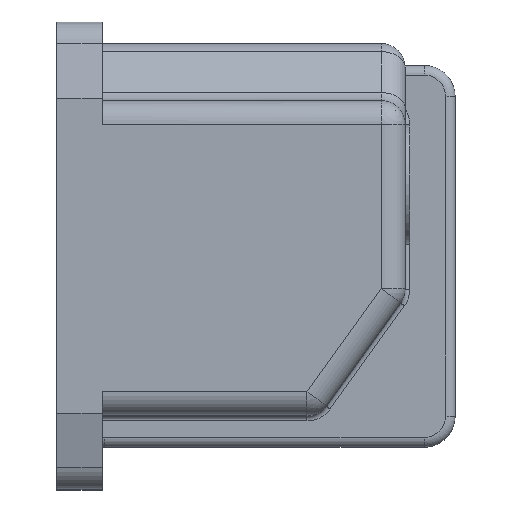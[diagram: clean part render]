
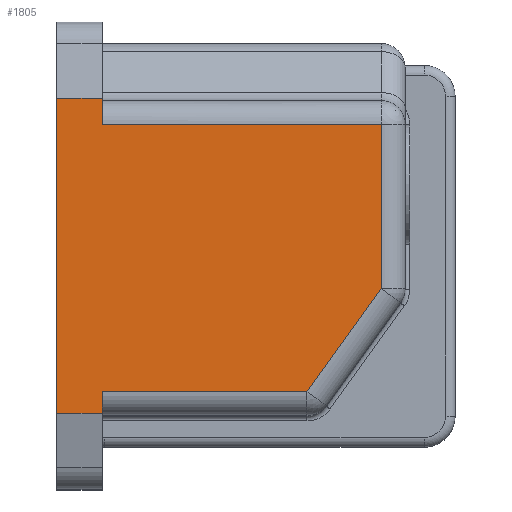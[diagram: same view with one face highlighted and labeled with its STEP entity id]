
A CAD part, top view. The second image highlights one B-rep face of the part: STEP entity #1805.
In plain terms, the highlighted planar face has unit normal (0, 0, 1).
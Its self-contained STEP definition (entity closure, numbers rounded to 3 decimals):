
#914=CARTESIAN_POINT('',(-34.,33.,98.));
#915=VERTEX_POINT('',#914);
#922=CARTESIAN_POINT('',(-34.,27.5,98.0));
#923=VERTEX_POINT('',#922);
#924=CARTESIAN_POINT('',(-34.,27.5,98.));
#925=DIRECTION('',(0.0,1.0,0.0));
#926=VECTOR('',#925,5.5);
#927=LINE('',#924,#926);
#928=EDGE_CURVE('',#923,#915,#927,.T.);
#1346=CARTESIAN_POINT('',(8.939,-28.5,98.));
#1347=VERTEX_POINT('',#1346);
#1371=CARTESIAN_POINT('',(-34.,-28.5,98.));
#1372=VERTEX_POINT('',#1371);
#1389=CARTESIAN_POINT('',(8.939,-28.5,98.));
#1390=DIRECTION('',(-1.0,0.0,0.0));
#1391=VECTOR('',#1390,42.939);
#1392=LINE('',#1389,#1391);
#1393=EDGE_CURVE('',#1347,#1372,#1392,.T.);
#1475=CARTESIAN_POINT('',(24.5,-6.887,98.0));
#1476=VERTEX_POINT('',#1475);
#1572=CARTESIAN_POINT('',(24.5,27.5,98.0));
#1573=VERTEX_POINT('',#1572);
#1696=CARTESIAN_POINT('',(-34.,27.5,98.0));
#1697=DIRECTION('',(1.0,0.0,0.0));
#1698=VECTOR('',#1697,58.5);
#1699=LINE('',#1696,#1698);
#1700=EDGE_CURVE('',#923,#1573,#1699,.T.);
#1720=CARTESIAN_POINT('',(24.5,27.5,98.0));
#1721=DIRECTION('',(0.0,-1.0,0.0));
#1722=VECTOR('',#1721,34.387);
#1723=LINE('',#1720,#1722);
#1724=EDGE_CURVE('',#1573,#1476,#1723,.T.);
#1737=CARTESIAN_POINT('',(24.5,-6.887,98.0));
#1738=DIRECTION('',(-0.584,-0.812,0.));
#1739=VECTOR('',#1738,26.632);
#1740=LINE('',#1737,#1739);
#1741=EDGE_CURVE('',#1476,#1347,#1740,.T.);
#1763=CARTESIAN_POINT('',(29.5,32.5,98.0));
#1764=DIRECTION('',(0.0,0.0,1.0));
#1765=DIRECTION('',(1.0,0.0,0.0));
#1766=AXIS2_PLACEMENT_3D('',#1763,#1764,#1765);
#1767=PLANE('',#1766);
#1768=CARTESIAN_POINT('',(-34.,-33.,98.));
#1769=VERTEX_POINT('',#1768);
#1770=CARTESIAN_POINT('',(-34.,-28.5,98.));
#1771=DIRECTION('',(0.0,-1.0,0.0));
#1772=VECTOR('',#1771,4.5);
#1773=LINE('',#1770,#1772);
#1774=EDGE_CURVE('',#1372,#1769,#1773,.T.);
#1775=ORIENTED_EDGE('',*,*,#1774,.F.);
#1776=ORIENTED_EDGE('',*,*,#1393,.F.);
#1777=ORIENTED_EDGE('',*,*,#1741,.F.);
#1778=ORIENTED_EDGE('',*,*,#1724,.F.);
#1779=ORIENTED_EDGE('',*,*,#1700,.F.);
#1780=ORIENTED_EDGE('',*,*,#928,.T.);
#1781=CARTESIAN_POINT('',(-43.5,33.,98.));
#1782=VERTEX_POINT('',#1781);
#1783=CARTESIAN_POINT('',(-34.,33.,98.0));
#1784=DIRECTION('',(-1.0,0.0,0.0));
#1785=VECTOR('',#1784,9.5);
#1786=LINE('',#1783,#1785);
#1787=EDGE_CURVE('',#915,#1782,#1786,.T.);
#1788=ORIENTED_EDGE('',*,*,#1787,.T.);
#1789=CARTESIAN_POINT('',(-43.5,-33.,98.));
#1790=VERTEX_POINT('',#1789);
#1791=CARTESIAN_POINT('',(-43.5,33.,98.));
#1792=DIRECTION('',(0.0,-1.0,0.0));
#1793=VECTOR('',#1792,66.);
#1794=LINE('',#1791,#1793);
#1795=EDGE_CURVE('',#1782,#1790,#1794,.T.);
#1796=ORIENTED_EDGE('',*,*,#1795,.T.);
#1797=CARTESIAN_POINT('',(-43.5,-33.,98.));
#1798=DIRECTION('',(1.0,0.0,0.0));
#1799=VECTOR('',#1798,9.5);
#1800=LINE('',#1797,#1799);
#1801=EDGE_CURVE('',#1790,#1769,#1800,.T.);
#1802=ORIENTED_EDGE('',*,*,#1801,.T.);
#1803=EDGE_LOOP('',(#1775,#1776,#1777,#1778,#1779,#1780,#1788,#1796,#1802));
#1804=FACE_OUTER_BOUND('',#1803,.T.);
#1805=ADVANCED_FACE('',(#1804),#1767,.T.);
